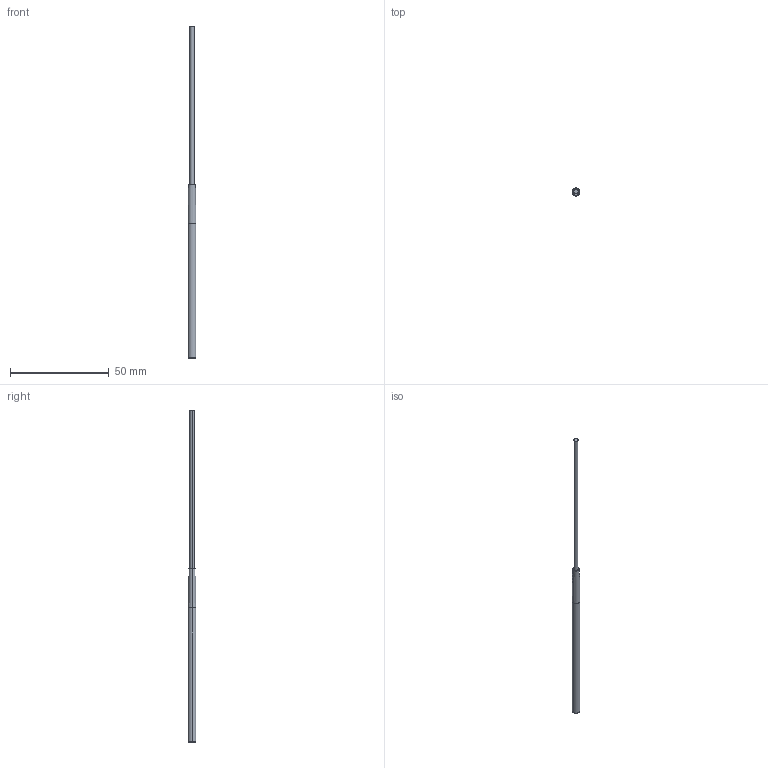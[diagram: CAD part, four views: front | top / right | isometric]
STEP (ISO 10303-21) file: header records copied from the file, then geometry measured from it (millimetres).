
FILE_DESCRIPTION((''),'2;1');
FILE_NAME('IFS 2401 0°.stp','2008-03-12T08:44:10',(''),(''),'AutoCAD STEP 2000i','AutoCAD 2000i',', , ');
FILE_SCHEMA(('CONFIG_CONTROL_DESIGN'));
Length unit declared in the file: millimetre
Products named in the file (5): IFS 2401 0ｰ; PART1; PART2; PART3; PART4
Assembly tree (4 placements, depth 2):
  IFS 2401 0ｰ
    PART1
    PART2
    PART3
    PART4
Bounding box: 4 x 4 x 168 mm (x, y, z)
Volume: 1342.7 mm3; surface area: 3269.3 mm2
Topology: 4 solids, 4 shells, 32 faces, 60 edges, 36 vertices
Faces by surface type: cone 12, cylinder 12, plane 8
Entity records: 963 total; most frequent: DIRECTION 170, CARTESIAN_POINT 133, ORIENTED_EDGE 120, AXIS2_PLACEMENT_3D 73, EDGE_CURVE 60, VERTEX_POINT 36, CIRCLE 36, EDGE_LOOP 36
